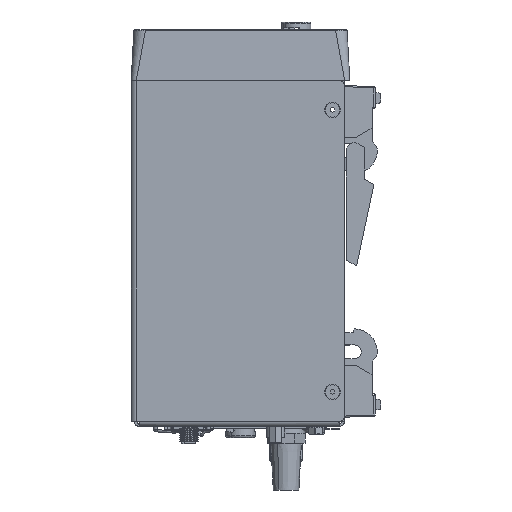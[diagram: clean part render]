
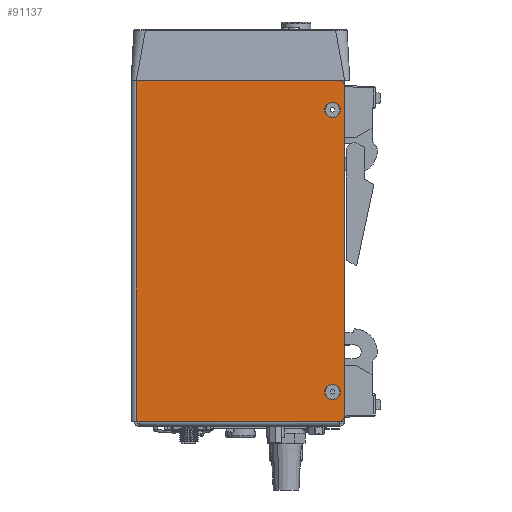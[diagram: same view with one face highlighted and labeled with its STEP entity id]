
A CAD part, left-side view. The second image highlights one B-rep face of the part: STEP entity #91137.
In plain terms, the highlighted planar face has unit normal (-1, 0, 0).
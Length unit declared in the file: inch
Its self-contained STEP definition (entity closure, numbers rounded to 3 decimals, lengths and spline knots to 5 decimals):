
#2515 = ORIENTED_EDGE ( 'NONE', *, *, #93253, .F. ) ;
#4331 = EDGE_LOOP ( 'NONE', ( #35032, #71776 ) ) ;
#4923 = CARTESIAN_POINT ( 'NONE',  ( -7.88006, 0.1811, -0.69638 ) ) ;
#6569 = CARTESIAN_POINT ( 'NONE',  ( -7.88006, 0.1811, -0.69638 ) ) ;
#7082 = CARTESIAN_POINT ( 'NONE',  ( -7.88006, 0.1811, -5.52138 ) ) ;
#7180 = EDGE_LOOP ( 'NONE', ( #91269, #2515 ) ) ;
#9007 = VERTEX_POINT ( 'NONE', #23703 ) ;
#15449 = DIRECTION ( 'NONE',  ( 0., 0., 1. ) ) ;
#15966 = AXIS2_PLACEMENT_3D ( 'NONE', #93803, #34662, #71407 ) ;
#16341 = CARTESIAN_POINT ( 'NONE',  ( -7.88006, -0.0239, -6.02138 ) ) ;
#16374 = CARTESIAN_POINT ( 'NONE',  ( -7.88006, 0.1811, -5.64539 ) ) ;
#16809 = FACE_BOUND ( 'NONE', #7180, .T. ) ;
#19314 = VERTEX_POINT ( 'NONE', #47831 ) ;
#20810 = CARTESIAN_POINT ( 'NONE',  ( -7.88006, 3.53673, -0.19638 ) ) ;
#21688 = VERTEX_POINT ( 'NONE', #38029 ) ;
#22040 = CIRCLE ( 'NONE', #46406, 0.12402 ) ;
#22944 = ORIENTED_EDGE ( 'NONE', *, *, #56270, .T. ) ;
#22988 = AXIS2_PLACEMENT_3D ( 'NONE', #44047, #50749, #29740 ) ;
#23703 = CARTESIAN_POINT ( 'NONE',  ( -7.88006, 0.1811, -5.39736 ) ) ;
#23869 = AXIS2_PLACEMENT_3D ( 'NONE', #85940, #43449, #29160 ) ;
#26065 = EDGE_CURVE ( 'NONE', #60100, #88301, #79410, .T. ) ;
#26627 = ORIENTED_EDGE ( 'NONE', *, *, #45721, .F. ) ;
#26835 = VECTOR ( 'NONE', #15449, 39.37008 ) ;
#27594 = DIRECTION ( 'NONE',  ( -1., 0., 0. ) ) ;
#29160 = DIRECTION ( 'NONE',  ( 0., 0., -1. ) ) ;
#29740 = DIRECTION ( 'NONE',  ( 0., 0., -1. ) ) ;
#31099 = DIRECTION ( 'NONE',  ( 1., 0., 0. ) ) ;
#31579 = PLANE ( 'NONE',  #46678 ) ;
#32295 = CARTESIAN_POINT ( 'NONE',  ( -7.88006, -0.0239, -5.94264 ) ) ;
#34490 = DIRECTION ( 'NONE',  ( -1., 0., 0. ) ) ;
#34662 = DIRECTION ( 'NONE',  ( -1., 0., 0. ) ) ;
#35032 = ORIENTED_EDGE ( 'NONE', *, *, #92124, .F. ) ;
#36182 = DIRECTION ( 'NONE',  ( -1., 0., 0. ) ) ;
#36894 = CARTESIAN_POINT ( 'NONE',  ( -7.88006, -0.0239, -6.02138 ) ) ;
#38029 = CARTESIAN_POINT ( 'NONE',  ( -7.88006, 0.05484, -0.19638 ) ) ;
#38825 = AXIS2_PLACEMENT_3D ( 'NONE', #6569, #27594, #94345 ) ;
#38973 = ORIENTED_EDGE ( 'NONE', *, *, #93666, .T. ) ;
#42193 = CARTESIAN_POINT ( 'NONE',  ( -7.88006, 0.05484, -6.02138 ) ) ;
#42648 = VERTEX_POINT ( 'NONE', #80267 ) ;
#43449 = DIRECTION ( 'NONE',  ( -1., 0., 0. ) ) ;
#43836 = LINE ( 'NONE', #61289, #90803 ) ;
#44047 = CARTESIAN_POINT ( 'NONE',  ( -7.88006, 0.05484, -5.94264 ) ) ;
#44304 = DIRECTION ( 'NONE',  ( 0., 1., 0. ) ) ;
#44888 = DIRECTION ( 'NONE',  ( 0., 1., 0. ) ) ;
#45721 = EDGE_CURVE ( 'NONE', #60100, #64893, #43836, .T. ) ;
#46406 = AXIS2_PLACEMENT_3D ( 'NONE', #7082, #36182, #57196 ) ;
#46678 = AXIS2_PLACEMENT_3D ( 'NONE', #16341, #31099, #60639 ) ;
#47831 = CARTESIAN_POINT ( 'NONE',  ( -7.88006, 3.53673, -0.19638 ) ) ;
#49601 = EDGE_CURVE ( 'NONE', #88301, #52893, #66453, .T. ) ;
#49613 = VECTOR ( 'NONE', #70884, 39.37008 ) ;
#50232 = ORIENTED_EDGE ( 'NONE', *, *, #26065, .T. ) ;
#50439 = AXIS2_PLACEMENT_3D ( 'NONE', #4923, #34490, #63591 ) ;
#50749 = DIRECTION ( 'NONE',  ( -1., 0., 0. ) ) ;
#51599 = LINE ( 'NONE', #52055, #67804 ) ;
#52055 = CARTESIAN_POINT ( 'NONE',  ( -7.88006, -0.0239, -0.19638 ) ) ;
#52893 = VERTEX_POINT ( 'NONE', #53774 ) ;
#53112 = EDGE_CURVE ( 'NONE', #73016, #9007, #61538, .T. ) ;
#53617 = CARTESIAN_POINT ( 'NONE',  ( -7.88006, 0.1811, -0.57236 ) ) ;
#53774 = CARTESIAN_POINT ( 'NONE',  ( -7.88006, -0.0239, -0.27512 ) ) ;
#56270 = EDGE_CURVE ( 'NONE', #21688, #19314, #51599, .T. ) ;
#57196 = DIRECTION ( 'NONE',  ( 0., 0., 1. ) ) ;
#58475 = ORIENTED_EDGE ( 'NONE', *, *, #49601, .T. ) ;
#60100 = VERTEX_POINT ( 'NONE', #42193 ) ;
#60639 = DIRECTION ( 'NONE',  ( 0., 0., -1. ) ) ;
#60649 = CARTESIAN_POINT ( 'NONE',  ( -7.88006, 3.53673, -6.02138 ) ) ;
#61102 = FACE_OUTER_BOUND ( 'NONE', #80339, .T. ) ;
#61289 = CARTESIAN_POINT ( 'NONE',  ( -7.88006, -0.0239, -6.02138 ) ) ;
#61538 = CIRCLE ( 'NONE', #15966, 0.12402 ) ;
#63591 = DIRECTION ( 'NONE',  ( 0., 0., 1. ) ) ;
#64109 = CIRCLE ( 'NONE', #50439, 0.12402 ) ;
#64893 = VERTEX_POINT ( 'NONE', #60649 ) ;
#66453 = LINE ( 'NONE', #36894, #26835 ) ;
#67804 = VECTOR ( 'NONE', #44888, 39.37008 ) ;
#70884 = DIRECTION ( 'NONE',  ( 0., 0., -1. ) ) ;
#71407 = DIRECTION ( 'NONE',  ( 0., 0., 1. ) ) ;
#71776 = ORIENTED_EDGE ( 'NONE', *, *, #53112, .F. ) ;
#73016 = VERTEX_POINT ( 'NONE', #16374 ) ;
#79410 = CIRCLE ( 'NONE', #22988, 0.07874 ) ;
#80010 = CIRCLE ( 'NONE', #38825, 0.12402 ) ;
#80088 = EDGE_CURVE ( 'NONE', #94076, #42648, #64109, .T. ) ;
#80267 = CARTESIAN_POINT ( 'NONE',  ( -7.88006, 0.1811, -0.82039 ) ) ;
#80339 = EDGE_LOOP ( 'NONE', ( #58475, #90381, #22944, #38973, #26627, #50232 ) ) ;
#82152 = FACE_BOUND ( 'NONE', #4331, .T. ) ;
#85940 = CARTESIAN_POINT ( 'NONE',  ( -7.88006, 0.05484, -0.27512 ) ) ;
#86329 = CIRCLE ( 'NONE', #23869, 0.07874 ) ;
#88301 = VERTEX_POINT ( 'NONE', #32295 ) ;
#90381 = ORIENTED_EDGE ( 'NONE', *, *, #91744, .T. ) ;
#90803 = VECTOR ( 'NONE', #44304, 39.37008 ) ;
#91137 = ADVANCED_FACE ( 'NONE', ( #82152, #16809, #61102 ), #31579, .F. ) ;
#91269 = ORIENTED_EDGE ( 'NONE', *, *, #80088, .F. ) ;
#91744 = EDGE_CURVE ( 'NONE', #52893, #21688, #86329, .T. ) ;
#92124 = EDGE_CURVE ( 'NONE', #9007, #73016, #22040, .T. ) ;
#93253 = EDGE_CURVE ( 'NONE', #42648, #94076, #80010, .T. ) ;
#93324 = LINE ( 'NONE', #20810, #49613 ) ;
#93666 = EDGE_CURVE ( 'NONE', #19314, #64893, #93324, .T. ) ;
#93803 = CARTESIAN_POINT ( 'NONE',  ( -7.88006, 0.1811, -5.52138 ) ) ;
#94076 = VERTEX_POINT ( 'NONE', #53617 ) ;
#94345 = DIRECTION ( 'NONE',  ( 0., 0., 1. ) ) ;
